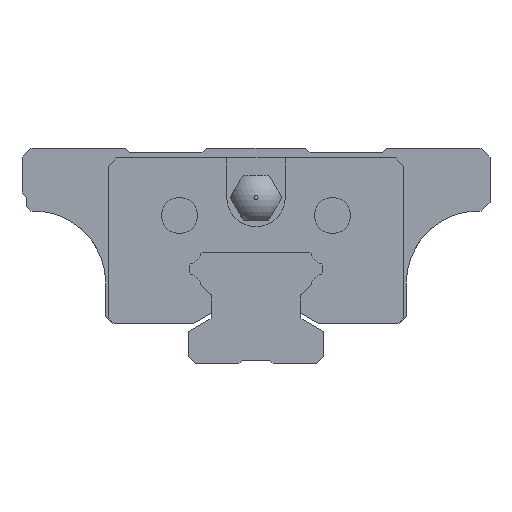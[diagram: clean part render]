
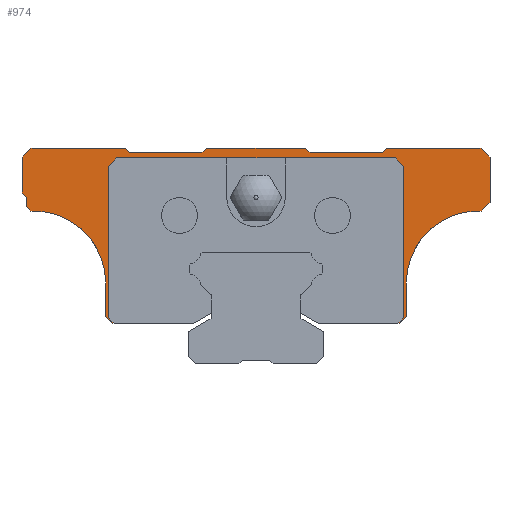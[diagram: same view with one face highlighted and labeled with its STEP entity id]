
A CAD part, front view. The second image highlights one B-rep face of the part: STEP entity #974.
In plain terms, the highlighted planar face has unit normal (0, -1, 0).
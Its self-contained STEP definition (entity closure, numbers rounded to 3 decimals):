
#223=PLANE('',#3112);
#354=LINE('',#4233,#662);
#358=LINE('',#4242,#666);
#361=LINE('',#4248,#669);
#364=LINE('',#4258,#672);
#367=LINE('',#4264,#675);
#370=LINE('',#4270,#678);
#373=LINE('',#4276,#681);
#376=LINE('',#4282,#684);
#379=LINE('',#4288,#687);
#382=LINE('',#4298,#690);
#392=LINE('',#4386,#700);
#395=LINE('',#4392,#703);
#398=LINE('',#4398,#706);
#454=LINE('',#4526,#762);
#461=LINE('',#4540,#769);
#464=LINE('',#4546,#772);
#471=LINE('',#4631,#779);
#477=LINE('',#4644,#785);
#480=LINE('',#4650,#788);
#483=LINE('',#4656,#791);
#486=LINE('',#4666,#794);
#489=LINE('',#4672,#797);
#492=LINE('',#4678,#800);
#495=LINE('',#4684,#803);
#498=LINE('',#4690,#806);
#507=LINE('',#4707,#815);
#508=LINE('',#4709,#816);
#509=LINE('',#4711,#817);
#510=LINE('',#4713,#818);
#511=LINE('',#4715,#819);
#512=LINE('',#4717,#820);
#513=LINE('',#4719,#821);
#662=VECTOR('',#3451,1.);
#666=VECTOR('',#3457,1.);
#669=VECTOR('',#3462,1.);
#672=VECTOR('',#3471,1.);
#675=VECTOR('',#3476,1.);
#678=VECTOR('',#3481,1.);
#681=VECTOR('',#3486,1.);
#684=VECTOR('',#3491,1.);
#687=VECTOR('',#3496,1.);
#690=VECTOR('',#3505,1.);
#700=VECTOR('',#3535,1.);
#703=VECTOR('',#3540,1.);
#706=VECTOR('',#3545,1.);
#762=VECTOR('',#3657,1.);
#769=VECTOR('',#3666,1.);
#772=VECTOR('',#3671,1.);
#779=VECTOR('',#3698,1.);
#785=VECTOR('',#3710,1.);
#788=VECTOR('',#3715,1.);
#791=VECTOR('',#3720,1.);
#794=VECTOR('',#3729,1.);
#797=VECTOR('',#3734,1.);
#800=VECTOR('',#3739,1.);
#803=VECTOR('',#3744,1.);
#806=VECTOR('',#3749,1.);
#815=VECTOR('',#3762,1.);
#816=VECTOR('',#3763,1.);
#817=VECTOR('',#3764,1.);
#818=VECTOR('',#3765,1.);
#819=VECTOR('',#3766,1.);
#820=VECTOR('',#3767,1.);
#821=VECTOR('',#3768,1.);
#974=ADVANCED_FACE('',(#1121),#223,.T.);
#1121=FACE_OUTER_BOUND('',#1336,.T.);
#1336=EDGE_LOOP('',(#1931,#1932,#1933,#1934,#1935,#1936,#1937,#1938,#1939,
#1940,#1941,#1942,#1943,#1944,#1945,#1946,#1947,#1948,#1949,#1950,#1951,
#1952,#1953,#1954,#1955,#1956,#1957,#1958,#1959,#1960,#1961,#1962,#1963,
#1964));
#1931=ORIENTED_EDGE('',*,*,#2790,.F.);
#1932=ORIENTED_EDGE('',*,*,#2791,.F.);
#1933=ORIENTED_EDGE('',*,*,#2792,.T.);
#1934=ORIENTED_EDGE('',*,*,#2793,.T.);
#1935=ORIENTED_EDGE('',*,*,#2794,.F.);
#1936=ORIENTED_EDGE('',*,*,#2795,.T.);
#1937=ORIENTED_EDGE('',*,*,#2796,.T.);
#1938=ORIENTED_EDGE('',*,*,#2723,.T.);
#1939=ORIENTED_EDGE('',*,*,#2730,.F.);
#1940=ORIENTED_EDGE('',*,*,#2733,.T.);
#1941=ORIENTED_EDGE('',*,*,#2745,.F.);
#1942=ORIENTED_EDGE('',*,*,#2750,.T.);
#1943=ORIENTED_EDGE('',*,*,#2758,.F.);
#1944=ORIENTED_EDGE('',*,*,#2761,.F.);
#1945=ORIENTED_EDGE('',*,*,#2764,.T.);
#1946=ORIENTED_EDGE('',*,*,#2769,.T.);
#1947=ORIENTED_EDGE('',*,*,#2772,.T.);
#1948=ORIENTED_EDGE('',*,*,#2775,.T.);
#1949=ORIENTED_EDGE('',*,*,#2778,.F.);
#1950=ORIENTED_EDGE('',*,*,#2781,.T.);
#1951=ORIENTED_EDGE('',*,*,#2601,.T.);
#1952=ORIENTED_EDGE('',*,*,#2605,.F.);
#1953=ORIENTED_EDGE('',*,*,#2608,.F.);
#1954=ORIENTED_EDGE('',*,*,#2613,.F.);
#1955=ORIENTED_EDGE('',*,*,#2616,.T.);
#1956=ORIENTED_EDGE('',*,*,#2619,.T.);
#1957=ORIENTED_EDGE('',*,*,#2622,.T.);
#1958=ORIENTED_EDGE('',*,*,#2625,.T.);
#1959=ORIENTED_EDGE('',*,*,#2628,.T.);
#1960=ORIENTED_EDGE('',*,*,#2633,.F.);
#1961=ORIENTED_EDGE('',*,*,#2652,.F.);
#1962=ORIENTED_EDGE('',*,*,#2653,.F.);
#1963=ORIENTED_EDGE('',*,*,#2656,.F.);
#1964=ORIENTED_EDGE('',*,*,#2659,.T.);
#2287=VERTEX_POINT('',#4234);
#2288=VERTEX_POINT('',#4235);
#2291=VERTEX_POINT('',#4243);
#2293=VERTEX_POINT('',#4249);
#2297=VERTEX_POINT('',#4259);
#2299=VERTEX_POINT('',#4265);
#2301=VERTEX_POINT('',#4271);
#2303=VERTEX_POINT('',#4277);
#2305=VERTEX_POINT('',#4283);
#2307=VERTEX_POINT('',#4289);
#2311=VERTEX_POINT('',#4299);
#2326=VERTEX_POINT('',#4383);
#2327=VERTEX_POINT('',#4387);
#2329=VERTEX_POINT('',#4393);
#2331=VERTEX_POINT('',#4399);
#2375=VERTEX_POINT('',#4527);
#2376=VERTEX_POINT('',#4528);
#2381=VERTEX_POINT('',#4541);
#2383=VERTEX_POINT('',#4547);
#2394=VERTEX_POINT('',#4620);
#2398=VERTEX_POINT('',#4630);
#2403=VERTEX_POINT('',#4645);
#2405=VERTEX_POINT('',#4651);
#2407=VERTEX_POINT('',#4657);
#2411=VERTEX_POINT('',#4667);
#2413=VERTEX_POINT('',#4673);
#2415=VERTEX_POINT('',#4679);
#2417=VERTEX_POINT('',#4685);
#2425=VERTEX_POINT('',#4708);
#2426=VERTEX_POINT('',#4710);
#2427=VERTEX_POINT('',#4712);
#2428=VERTEX_POINT('',#4714);
#2429=VERTEX_POINT('',#4716);
#2430=VERTEX_POINT('',#4718);
#2601=EDGE_CURVE('',#2287,#2288,#354,.T.);
#2605=EDGE_CURVE('',#2291,#2288,#358,.T.);
#2608=EDGE_CURVE('',#2293,#2291,#361,.T.);
#2613=EDGE_CURVE('',#2297,#2293,#364,.T.);
#2616=EDGE_CURVE('',#2297,#2299,#367,.T.);
#2619=EDGE_CURVE('',#2299,#2301,#370,.T.);
#2622=EDGE_CURVE('',#2301,#2303,#373,.T.);
#2625=EDGE_CURVE('',#2303,#2305,#376,.T.);
#2628=EDGE_CURVE('',#2305,#2307,#379,.T.);
#2633=EDGE_CURVE('',#2311,#2307,#382,.T.);
#2652=EDGE_CURVE('',#2326,#2311,#2908,.T.);
#2653=EDGE_CURVE('',#2327,#2326,#392,.T.);
#2656=EDGE_CURVE('',#2329,#2327,#395,.T.);
#2659=EDGE_CURVE('',#2329,#2331,#398,.T.);
#2723=EDGE_CURVE('',#2375,#2376,#454,.T.);
#2730=EDGE_CURVE('',#2381,#2376,#461,.T.);
#2733=EDGE_CURVE('',#2381,#2383,#464,.T.);
#2745=EDGE_CURVE('',#2394,#2383,#2921,.T.);
#2750=EDGE_CURVE('',#2394,#2398,#471,.T.);
#2758=EDGE_CURVE('',#2403,#2398,#477,.T.);
#2761=EDGE_CURVE('',#2405,#2403,#480,.T.);
#2764=EDGE_CURVE('',#2405,#2407,#483,.T.);
#2769=EDGE_CURVE('',#2407,#2411,#486,.T.);
#2772=EDGE_CURVE('',#2411,#2413,#489,.T.);
#2775=EDGE_CURVE('',#2413,#2415,#492,.T.);
#2778=EDGE_CURVE('',#2417,#2415,#495,.T.);
#2781=EDGE_CURVE('',#2417,#2287,#498,.T.);
#2790=EDGE_CURVE('',#2425,#2331,#507,.T.);
#2791=EDGE_CURVE('',#2426,#2425,#508,.T.);
#2792=EDGE_CURVE('',#2426,#2427,#509,.T.);
#2793=EDGE_CURVE('',#2427,#2428,#510,.T.);
#2794=EDGE_CURVE('',#2429,#2428,#511,.T.);
#2795=EDGE_CURVE('',#2429,#2430,#512,.T.);
#2796=EDGE_CURVE('',#2430,#2375,#513,.T.);
#2908=CIRCLE('',#3054,8.);
#2921=CIRCLE('',#3093,8.);
#3054=AXIS2_PLACEMENT_3D('',#4384,#3531,#3532);
#3093=AXIS2_PLACEMENT_3D('',#4621,#3687,#3688);
#3112=AXIS2_PLACEMENT_3D('',#4720,#3769,#3770);
#3451=DIRECTION('',(-0.707,0.,-0.707));
#3457=DIRECTION('',(1.,0.,0.));
#3462=DIRECTION('',(0.707,0.,-0.707));
#3471=DIRECTION('',(1.,0.,0.));
#3476=DIRECTION('',(-0.707,0.,-0.707));
#3481=DIRECTION('',(0.,0.,-1.));
#3486=DIRECTION('',(0.707,0.,-0.707));
#3491=DIRECTION('',(0.,0.,-1.));
#3496=DIRECTION('',(0.707,0.,-0.707));
#3505=DIRECTION('',(-1.,0.,0.));
#3531=DIRECTION('',(0.,-1.,0.));
#3532=DIRECTION('',(1.,0.,0.));
#3535=DIRECTION('',(0.,0.,1.));
#3540=DIRECTION('',(-0.707,0.,0.707));
#3545=DIRECTION('',(1.,0.,0.));
#3657=DIRECTION('',(1.,0.,0.));
#3666=DIRECTION('',(-0.707,0.,-0.707));
#3671=DIRECTION('',(0.,0.,1.));
#3687=DIRECTION('',(0.,-1.,0.));
#3688=DIRECTION('',(1.,0.,0.));
#3698=DIRECTION('',(1.,0.,0.));
#3710=DIRECTION('',(-0.707,0.,-0.707));
#3715=DIRECTION('',(0.,0.,-1.));
#3720=DIRECTION('',(-0.707,0.,0.707));
#3729=DIRECTION('',(-1.,0.,0.));
#3734=DIRECTION('',(-0.707,0.,-0.707));
#3739=DIRECTION('',(-1.,0.,0.));
#3744=DIRECTION('',(0.707,0.,-0.707));
#3749=DIRECTION('',(-1.,0.,0.));
#3762=DIRECTION('',(0.707,0.,-0.707));
#3763=DIRECTION('',(0.,0.,-1.));
#3764=DIRECTION('',(0.707,0.,0.707));
#3765=DIRECTION('',(1.,0.,0.));
#3766=DIRECTION('',(-0.707,0.,0.707));
#3767=DIRECTION('',(0.,0.,-1.));
#3768=DIRECTION('',(-0.707,0.,-0.707));
#3769=DIRECTION('',(0.,-1.,0.));
#3770=DIRECTION('',(0.,0.,-1.));
#4233=CARTESIAN_POINT('',(-5.5,-20.25,23.6));
#4234=CARTESIAN_POINT('',(-5.5,-20.25,23.6));
#4235=CARTESIAN_POINT('',(-6.,-20.25,23.1));
#4242=CARTESIAN_POINT('',(-14.,-20.25,23.1));
#4243=CARTESIAN_POINT('',(-14.,-20.25,23.1));
#4248=CARTESIAN_POINT('',(-14.5,-20.25,23.6));
#4249=CARTESIAN_POINT('',(-14.5,-20.25,23.6));
#4258=CARTESIAN_POINT('',(-25.,-20.25,23.6));
#4259=CARTESIAN_POINT('',(-25.,-20.25,23.6));
#4264=CARTESIAN_POINT('',(-25.,-20.25,23.6));
#4265=CARTESIAN_POINT('',(-26.,-20.25,22.6));
#4270=CARTESIAN_POINT('',(-26.,-20.25,22.6));
#4271=CARTESIAN_POINT('',(-26.,-20.25,18.6));
#4276=CARTESIAN_POINT('',(-26.,-20.25,18.6));
#4277=CARTESIAN_POINT('',(-25.5,-20.25,18.1));
#4282=CARTESIAN_POINT('',(-25.5,-20.25,18.1));
#4283=CARTESIAN_POINT('',(-25.5,-20.25,17.1));
#4288=CARTESIAN_POINT('',(-25.5,-20.25,17.1));
#4289=CARTESIAN_POINT('',(-25.,-20.25,16.6));
#4298=CARTESIAN_POINT('',(-24.7,-20.25,16.6));
#4299=CARTESIAN_POINT('',(-24.7,-20.25,16.6));
#4383=CARTESIAN_POINT('',(-16.7,-20.25,8.6));
#4384=CARTESIAN_POINT('',(-24.7,-20.25,8.6));
#4386=CARTESIAN_POINT('',(-16.7,-20.25,4.9));
#4387=CARTESIAN_POINT('',(-16.7,-20.25,4.9));
#4392=CARTESIAN_POINT('',(-15.9,-20.25,4.1));
#4393=CARTESIAN_POINT('',(-15.9,-20.25,4.1));
#4398=CARTESIAN_POINT('',(-15.9,-20.25,4.1));
#4399=CARTESIAN_POINT('',(-15.759,-20.25,4.1));
#4526=CARTESIAN_POINT('',(6.941,-20.25,4.1));
#4527=CARTESIAN_POINT('',(15.759,-20.25,4.1));
#4528=CARTESIAN_POINT('',(15.9,-20.25,4.1));
#4540=CARTESIAN_POINT('',(16.7,-20.25,4.9));
#4541=CARTESIAN_POINT('',(16.7,-20.25,4.9));
#4546=CARTESIAN_POINT('',(16.7,-20.25,4.9));
#4547=CARTESIAN_POINT('',(16.7,-20.25,8.6));
#4620=CARTESIAN_POINT('',(24.7,-20.25,16.6));
#4621=CARTESIAN_POINT('',(24.7,-20.25,8.6));
#4630=CARTESIAN_POINT('',(25.,-20.25,16.6));
#4631=CARTESIAN_POINT('',(24.7,-20.25,16.6));
#4644=CARTESIAN_POINT('',(26.,-20.25,17.6));
#4645=CARTESIAN_POINT('',(26.,-20.25,17.6));
#4650=CARTESIAN_POINT('',(26.,-20.25,22.6));
#4651=CARTESIAN_POINT('',(26.,-20.25,22.6));
#4656=CARTESIAN_POINT('',(26.,-20.25,22.6));
#4657=CARTESIAN_POINT('',(25.,-20.25,23.6));
#4666=CARTESIAN_POINT('',(25.,-20.25,23.6));
#4667=CARTESIAN_POINT('',(14.5,-20.25,23.6));
#4672=CARTESIAN_POINT('',(14.5,-20.25,23.6));
#4673=CARTESIAN_POINT('',(14.,-20.25,23.1));
#4678=CARTESIAN_POINT('',(14.,-20.25,23.1));
#4679=CARTESIAN_POINT('',(6.,-20.25,23.1));
#4684=CARTESIAN_POINT('',(5.5,-20.25,23.6));
#4685=CARTESIAN_POINT('',(5.5,-20.25,23.6));
#4690=CARTESIAN_POINT('',(5.5,-20.25,23.6));
#4707=CARTESIAN_POINT('',(-16.4,-20.25,4.741));
#4708=CARTESIAN_POINT('',(-16.4,-20.25,4.741));
#4709=CARTESIAN_POINT('',(-16.4,-20.25,21.55));
#4710=CARTESIAN_POINT('',(-16.4,-20.25,21.55));
#4711=CARTESIAN_POINT('',(-16.4,-20.25,21.55));
#4712=CARTESIAN_POINT('',(-15.45,-20.25,22.5));
#4713=CARTESIAN_POINT('',(-15.45,-20.25,22.5));
#4714=CARTESIAN_POINT('',(15.45,-20.25,22.5));
#4715=CARTESIAN_POINT('',(16.4,-20.25,21.55));
#4716=CARTESIAN_POINT('',(16.4,-20.25,21.55));
#4717=CARTESIAN_POINT('',(16.4,-20.25,21.55));
#4718=CARTESIAN_POINT('',(16.4,-20.25,4.741));
#4719=CARTESIAN_POINT('',(16.4,-20.25,4.741));
#4720=CARTESIAN_POINT('',(-24.7,-20.25,8.6));
